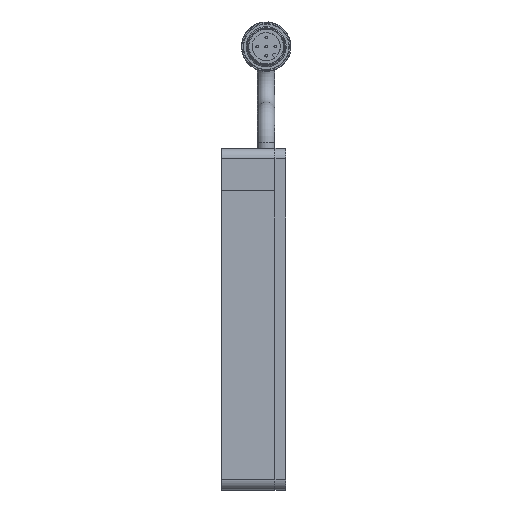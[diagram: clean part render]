
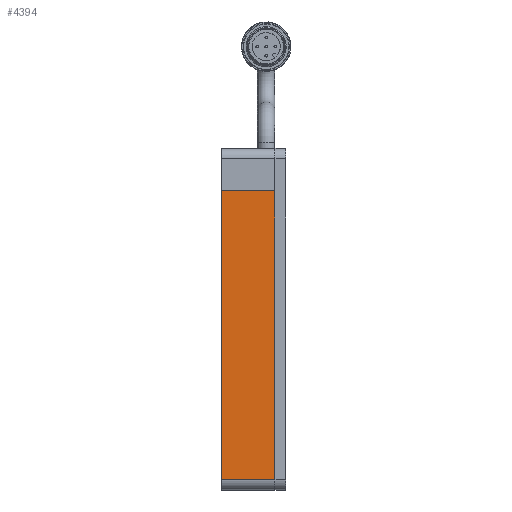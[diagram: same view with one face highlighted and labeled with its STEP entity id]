
A CAD part, left-side view. The second image highlights one B-rep face of the part: STEP entity #4394.
In plain terms, the highlighted planar face has unit normal (-1, 0, 0) as drawn and (0, 0, -1) by its records, which use the part's own axes.
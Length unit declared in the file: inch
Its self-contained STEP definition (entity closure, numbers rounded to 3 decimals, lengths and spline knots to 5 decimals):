
#85 = CARTESIAN_POINT ( 'NONE',  ( -1.5, 0.3125, -0.25 ) ) ;
#240 = DIRECTION ( 'NONE',  ( 0., 1., 0. ) ) ;
#441 = VERTEX_POINT ( 'NONE', #13764 ) ;
#1380 = LINE ( 'NONE', #3671, #11049 ) ;
#1960 = EDGE_CURVE ( 'NONE', #8514, #441, #11149, .T. ) ;
#2263 = FACE_OUTER_BOUND ( 'NONE', #6089, .T. ) ;
#2643 = EDGE_CURVE ( 'NONE', #441, #3935, #1380, .T. ) ;
#2875 = ORIENTED_EDGE ( 'NONE', *, *, #8675, .T. ) ;
#3460 = DIRECTION ( 'NONE',  ( -1., 0., 0. ) ) ;
#3671 = CARTESIAN_POINT ( 'NONE',  ( -1.5, -0.3125, -0.25 ) ) ;
#3721 = LINE ( 'NONE', #4787, #6124 ) ;
#3855 = ORIENTED_EDGE ( 'NONE', *, *, #1960, .T. ) ;
#3921 = VERTEX_POINT ( 'NONE', #6635 ) ;
#3935 = VERTEX_POINT ( 'NONE', #85 ) ;
#3954 = ORIENTED_EDGE ( 'NONE', *, *, #2643, .T. ) ;
#4394 = ADVANCED_FACE ( 'NONE', ( #2263 ), #7703, .F. ) ;
#4540 = LINE ( 'NONE', #13237, #5175 ) ;
#4787 = CARTESIAN_POINT ( 'NONE',  ( 1.875, 0.3125, -0.25 ) ) ;
#5175 = VECTOR ( 'NONE', #3460, 39.37008 ) ;
#5416 = CARTESIAN_POINT ( 'NONE',  ( 1.875, -0.3125, -0.25 ) ) ;
#6089 = EDGE_LOOP ( 'NONE', ( #11088, #2875, #3855, #3954 ) ) ;
#6124 = VECTOR ( 'NONE', #7062, 39.37008 ) ;
#6635 = CARTESIAN_POINT ( 'NONE',  ( 1.875, 0.3125, -0.25 ) ) ;
#7062 = DIRECTION ( 'NONE',  ( 0., -1., 0. ) ) ;
#7553 = AXIS2_PLACEMENT_3D ( 'NONE', #7631, #11047, #7856 ) ;
#7631 = CARTESIAN_POINT ( 'NONE',  ( -2., 0.3125, -0.25 ) ) ;
#7703 = PLANE ( 'NONE',  #7553 ) ;
#7856 = DIRECTION ( 'NONE',  ( 1., 0., 0. ) ) ;
#8514 = VERTEX_POINT ( 'NONE', #5416 ) ;
#8675 = EDGE_CURVE ( 'NONE', #3921, #8514, #3721, .T. ) ;
#11047 = DIRECTION ( 'NONE',  ( 0., 0., 1. ) ) ;
#11049 = VECTOR ( 'NONE', #240, 39.37008 ) ;
#11088 = ORIENTED_EDGE ( 'NONE', *, *, #11886, .F. ) ;
#11149 = LINE ( 'NONE', #12368, #12880 ) ;
#11220 = DIRECTION ( 'NONE',  ( -1., 0., 0. ) ) ;
#11886 = EDGE_CURVE ( 'NONE', #3921, #3935, #4540, .T. ) ;
#12368 = CARTESIAN_POINT ( 'NONE',  ( -2., -0.3125, -0.25 ) ) ;
#12880 = VECTOR ( 'NONE', #11220, 39.37008 ) ;
#13237 = CARTESIAN_POINT ( 'NONE',  ( -2., 0.3125, -0.25 ) ) ;
#13764 = CARTESIAN_POINT ( 'NONE',  ( -1.5, -0.3125, -0.25 ) ) ;
